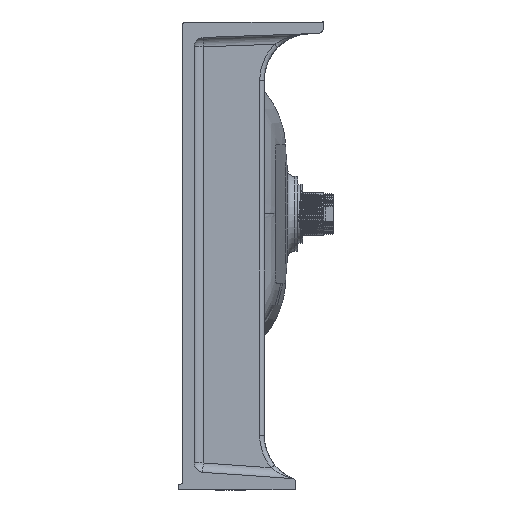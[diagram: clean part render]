
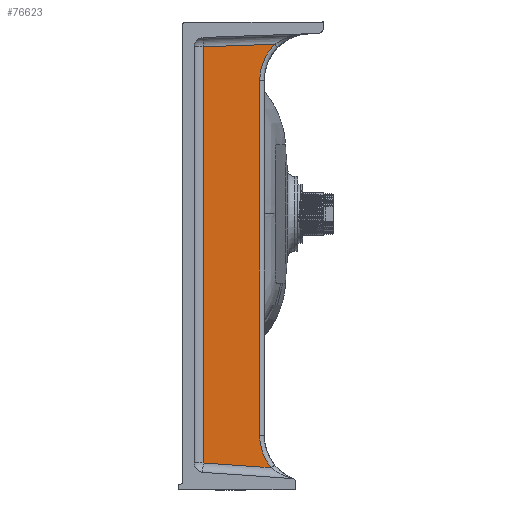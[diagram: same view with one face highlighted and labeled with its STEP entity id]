
A CAD part, left-side view. The second image highlights one B-rep face of the part: STEP entity #76623.
In plain terms, the highlighted planar face has unit normal (-1, -0.018, 0).
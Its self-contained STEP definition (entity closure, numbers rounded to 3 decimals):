
#1335 = FACE_OUTER_BOUND ( 'NONE', #42592, .T. ) ;
#6994 = CARTESIAN_POINT ( 'NONE',  ( -1056.012, -86.294, -261.319 ) ) ;
#7785 = DIRECTION ( 'NONE',  ( -0.017, 0.999, -0.035 ) ) ;
#8936 = ORIENTED_EDGE ( 'NONE', *, *, #55075, .T. ) ;
#9488 = DIRECTION ( 'NONE',  ( 1., 0.017, 0. ) ) ;
#12515 = EDGE_CURVE ( 'NONE', #76214, #22439, #44926, .T. ) ;
#13120 = DIRECTION ( 'NONE',  ( 0., 0., -1. ) ) ;
#14152 = LINE ( 'NONE', #83973, #32703 ) ;
#18801 = CARTESIAN_POINT ( 'NONE',  ( -1057.845, 18.726, -263.287 ) ) ;
#22123 = VERTEX_POINT ( 'NONE', #37743 ) ;
#22439 = VERTEX_POINT ( 'NONE', #51901 ) ;
#29972 = EDGE_CURVE ( 'NONE', #78828, #51309, #97770, .T. ) ;
#31768 = CARTESIAN_POINT ( 'NONE',  ( -1057.142, -21.597, 178.516 ) ) ;
#32703 = VECTOR ( 'NONE', #13120, 1000. ) ;
#35928 = ORIENTED_EDGE ( 'NONE', *, *, #74237, .T. ) ;
#36297 = CARTESIAN_POINT ( 'NONE',  ( -1056.086, -82.087, 268.571 ) ) ;
#37743 = CARTESIAN_POINT ( 'NONE',  ( -1057.138, -21.825, 178.524 ) ) ;
#38125 = CARTESIAN_POINT ( 'NONE',  ( -1056.086, -82.087, -249.377 ) ) ;
#40598 = DIRECTION ( 'NONE',  ( -0.017, 1., 0. ) ) ;
#41632 = EDGE_CURVE ( 'NONE', #22439, #22123, #85279, .T. ) ;
#42592 = EDGE_LOOP ( 'NONE', ( #35928, #81697, #84542, #8936, #61999, #51094 ) ) ;
#43435 = LINE ( 'NONE', #36297, #68998 ) ;
#44185 =( BOUNDED_CURVE ( )  B_SPLINE_CURVE ( 3, ( #76861, #6994, #38125, #69210 ),
 .UNSPECIFIED., .F., .F. ) 
 B_SPLINE_CURVE_WITH_KNOTS ( ( 4, 4 ),
 ( 5.606, 6.283 ),
 .UNSPECIFIED. ) 
 CURVE ( )  GEOMETRIC_REPRESENTATION_ITEM ( )  RATIONAL_B_SPLINE_CURVE ( ( 1., 0.962, 0.962, 1. ) ) 
 REPRESENTATION_ITEM ( '' )  );
#44926 =( BOUNDED_CURVE ( )  B_SPLINE_CURVE ( 3, ( #80802, #73156, #96076, #96578 ),
 .UNSPECIFIED., .F., .F. ) 
 B_SPLINE_CURVE_WITH_KNOTS ( ( 4, 4 ),
 ( 0., 0.78 ),
 .UNSPECIFIED. ) 
 CURVE ( )  GEOMETRIC_REPRESENTATION_ITEM ( )  RATIONAL_B_SPLINE_CURVE ( ( 1., 0.95, 0.95, 1. ) ) 
 REPRESENTATION_ITEM ( '' )  );
#46667 = VECTOR ( 'NONE', #7785, 1000. ) ;
#51094 = ORIENTED_EDGE ( 'NONE', *, *, #100222, .T. ) ;
#51309 = VERTEX_POINT ( 'NONE', #94307 ) ;
#51901 = CARTESIAN_POINT ( 'NONE',  ( -1055.808, -97.974, 181.183 ) ) ;
#52868 = CARTESIAN_POINT ( 'NONE',  ( -1056.086, -82.087, 142.516 ) ) ;
#54711 = CARTESIAN_POINT ( 'NONE',  ( -1056.086, -82.087, -236.716 ) ) ;
#55075 = EDGE_CURVE ( 'NONE', #22123, #78828, #14152, .T. ) ;
#56390 = CARTESIAN_POINT ( 'NONE',  ( -1057.196, -18.453, 268.571 ) ) ;
#59737 = DIRECTION ( 'NONE',  ( 0., 0., 1. ) ) ;
#61999 = ORIENTED_EDGE ( 'NONE', *, *, #29972, .T. ) ;
#68998 = VECTOR ( 'NONE', #59737, 1000. ) ;
#69157 = VECTOR ( 'NONE', #96770, 1000. ) ;
#69210 = CARTESIAN_POINT ( 'NONE',  ( -1056.086, -82.087, -236.716 ) ) ;
#70633 = CARTESIAN_POINT ( 'NONE',  ( -1057.138, -21.825, -266.123 ) ) ;
#72343 = AXIS2_PLACEMENT_3D ( 'NONE', #56390, #9488, #40598 ) ;
#73156 = CARTESIAN_POINT ( 'NONE',  ( -1056.086, -82.087, 157.184 ) ) ;
#74237 = EDGE_CURVE ( 'NONE', #94226, #76214, #43435, .T. ) ;
#76214 = VERTEX_POINT ( 'NONE', #52868 ) ;
#76623 = ADVANCED_FACE ( 'NONE', ( #1335 ), #86974, .F. ) ;
#76861 = CARTESIAN_POINT ( 'NONE',  ( -1055.874, -94.229, -271.186 ) ) ;
#78828 = VERTEX_POINT ( 'NONE', #70633 ) ;
#80802 = CARTESIAN_POINT ( 'NONE',  ( -1056.086, -82.087, 142.516 ) ) ;
#81697 = ORIENTED_EDGE ( 'NONE', *, *, #12515, .T. ) ;
#83973 = CARTESIAN_POINT ( 'NONE',  ( -1057.138, -21.825, -266.123 ) ) ;
#84542 = ORIENTED_EDGE ( 'NONE', *, *, #41632, .T. ) ;
#85279 = LINE ( 'NONE', #31768, #46667 ) ;
#86974 = PLANE ( 'NONE',  #72343 ) ;
#94226 = VERTEX_POINT ( 'NONE', #54711 ) ;
#94307 = CARTESIAN_POINT ( 'NONE',  ( -1055.874, -94.229, -271.186 ) ) ;
#96076 = CARTESIAN_POINT ( 'NONE',  ( -1055.988, -87.662, 170.752 ) ) ;
#96578 = CARTESIAN_POINT ( 'NONE',  ( -1055.808, -97.974, 181.183 ) ) ;
#96770 = DIRECTION ( 'NONE',  ( 0.017, -0.997, -0.07 ) ) ;
#97770 = LINE ( 'NONE', #18801, #69157 ) ;
#100222 = EDGE_CURVE ( 'NONE', #51309, #94226, #44185, .T. ) ;
